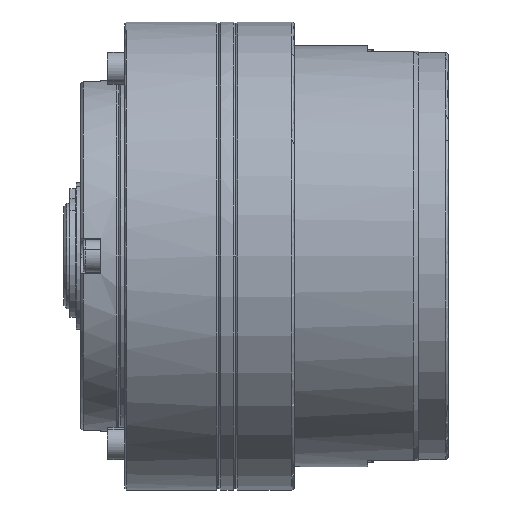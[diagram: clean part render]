
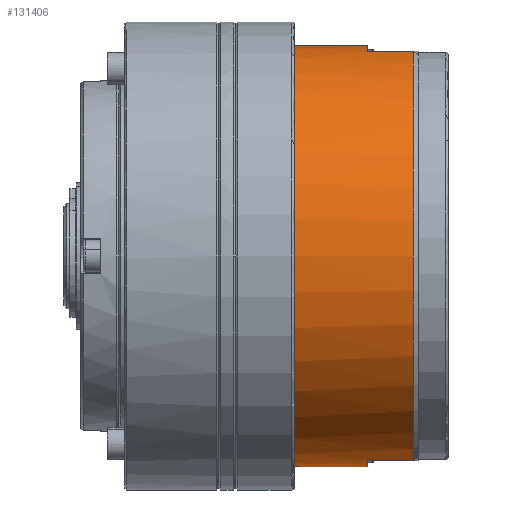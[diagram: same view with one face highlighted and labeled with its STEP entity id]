
A CAD part, left-side view. The second image highlights one B-rep face of the part: STEP entity #131406.
In plain terms, the highlighted cylindrical face has radius 36 mm (diameter 72 mm), a partial arc.
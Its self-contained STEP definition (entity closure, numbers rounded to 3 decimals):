
#3098 = CARTESIAN_POINT ( 'NONE',  ( -8.743, 8.7, 34.922 ) ) ;
#3840 = EDGE_CURVE ( 'NONE', #40414, #94831, #26426, .T. ) ;
#6182 = AXIS2_PLACEMENT_3D ( 'NONE', #99928, #13461, #56822 ) ;
#12487 = CARTESIAN_POINT ( 'NONE',  ( -8.743, 1., -34.922 ) ) ;
#13461 = DIRECTION ( 'NONE',  ( 0., 1., 0. ) ) ;
#14787 = CARTESIAN_POINT ( 'NONE',  ( -5.29, 8.7, 35.675 ) ) ;
#19782 = VECTOR ( 'NONE', #88752, 1000. ) ;
#20227 = VERTEX_POINT ( 'NONE', #32626 ) ;
#21260 = CARTESIAN_POINT ( 'NONE',  ( -7.03, 8.7, -35.351 ) ) ;
#21429 = CARTESIAN_POINT ( 'NONE',  ( -8.743, 8.7, -34.922 ) ) ;
#23023 = CARTESIAN_POINT ( 'NONE',  ( 0., 143.637, 36. ) ) ;
#23142 = ORIENTED_EDGE ( 'NONE', *, *, #77948, .T. ) ;
#24399 = CARTESIAN_POINT ( 'NONE',  ( -8.743, 143.637, -34.922 ) ) ;
#25453 = CARTESIAN_POINT ( 'NONE',  ( -3.532, 8.7, 35.892 ) ) ;
#26426 = LINE ( 'NONE', #65365, #19782 ) ;
#31672 = EDGE_CURVE ( 'NONE', #95633, #94831, #130209, .T. ) ;
#32568 = AXIS2_PLACEMENT_3D ( 'NONE', #80031, #112427, #133887 ) ;
#32626 = CARTESIAN_POINT ( 'NONE',  ( 0., 8.7, -36. ) ) ;
#33327 = CARTESIAN_POINT ( 'NONE',  ( 0., 21.3, -36. ) ) ;
#33404 = CARTESIAN_POINT ( 'NONE',  ( 0., 21.3, 36. ) ) ;
#33726 = DIRECTION ( 'NONE',  ( 0., -1., 0. ) ) ;
#36721 = LINE ( 'NONE', #23023, #115271 ) ;
#38359 = EDGE_CURVE ( 'NONE', #100884, #95633, #36721, .T. ) ;
#38667 = DIRECTION ( 'NONE',  ( 0., -1., 0. ) ) ;
#40414 = VERTEX_POINT ( 'NONE', #75033 ) ;
#40841 = CARTESIAN_POINT ( 'NONE',  ( -8.743, 8.7, -34.922 ) ) ;
#47235 = DIRECTION ( 'NONE',  ( 0., -1., 0. ) ) ;
#52966 = CARTESIAN_POINT ( 'NONE',  ( 0., 8.7, -36. ) ) ;
#53145 = LINE ( 'NONE', #24399, #111745 ) ;
#54673 = ORIENTED_EDGE ( 'NONE', *, *, #137543, .F. ) ;
#56822 = DIRECTION ( 'NONE',  ( 1., 0., 0. ) ) ;
#63264 = CARTESIAN_POINT ( 'NONE',  ( -3.532, 8.7, -35.892 ) ) ;
#65365 = CARTESIAN_POINT ( 'NONE',  ( -8.743, 143.637, 34.922 ) ) ;
#65757 = CYLINDRICAL_SURFACE ( 'NONE', #136255, 36. ) ;
#66326 = B_SPLINE_CURVE_WITH_KNOTS ( 'NONE', 5,
 ( #40841, #21260, #117144, #63264, #138093, #52966 ),
 .UNSPECIFIED., .F., .F.,
 ( 6, 6 ),
 ( 0., 12.489 ),
 .UNSPECIFIED. ) ;
#67484 = EDGE_CURVE ( 'NONE', #118679, #40414, #112327, .T. ) ;
#74049 = ORIENTED_EDGE ( 'NONE', *, *, #122034, .T. ) ;
#75033 = CARTESIAN_POINT ( 'NONE',  ( -8.743, 1., 34.922 ) ) ;
#77948 = EDGE_CURVE ( 'NONE', #136947, #118679, #53145, .T. ) ;
#78257 = EDGE_CURVE ( 'NONE', #114813, #20227, #113239, .T. ) ;
#78370 = ORIENTED_EDGE ( 'NONE', *, *, #38359, .F. ) ;
#80031 = CARTESIAN_POINT ( 'NONE',  ( 0., 21.3, 0. ) ) ;
#85046 = CARTESIAN_POINT ( 'NONE',  ( 0., 143.637, -36. ) ) ;
#86360 = EDGE_LOOP ( 'NONE', ( #78370, #74049, #138271, #54673, #23142, #115983, #118900, #87775 ) ) ;
#87775 = ORIENTED_EDGE ( 'NONE', *, *, #31672, .F. ) ;
#88752 = DIRECTION ( 'NONE',  ( 0., 1., 0. ) ) ;
#93817 = CARTESIAN_POINT ( 'NONE',  ( -8.743, 8.7, 34.922 ) ) ;
#94831 = VERTEX_POINT ( 'NONE', #93817 ) ;
#95633 = VERTEX_POINT ( 'NONE', #113297 ) ;
#98190 = VECTOR ( 'NONE', #116956, 1000. ) ;
#99396 = CARTESIAN_POINT ( 'NONE',  ( -1.766, 8.7, 36. ) ) ;
#99886 = CARTESIAN_POINT ( 'NONE',  ( -7.03, 8.7, 35.351 ) ) ;
#99928 = CARTESIAN_POINT ( 'NONE',  ( 0., 1., 0. ) ) ;
#100884 = VERTEX_POINT ( 'NONE', #33404 ) ;
#111745 = VECTOR ( 'NONE', #47235, 1000. ) ;
#112327 = CIRCLE ( 'NONE', #6182, 36. ) ;
#112427 = DIRECTION ( 'NONE',  ( 0., -1., 0. ) ) ;
#112698 = FACE_OUTER_BOUND ( 'NONE', #86360, .T. ) ;
#113239 = LINE ( 'NONE', #85046, #98190 ) ;
#113297 = CARTESIAN_POINT ( 'NONE',  ( 0., 8.7, 36. ) ) ;
#114813 = VERTEX_POINT ( 'NONE', #33327 ) ;
#115271 = VECTOR ( 'NONE', #33726, 1000. ) ;
#115983 = ORIENTED_EDGE ( 'NONE', *, *, #67484, .T. ) ;
#116956 = DIRECTION ( 'NONE',  ( 0., -1., 0. ) ) ;
#117144 = CARTESIAN_POINT ( 'NONE',  ( -5.29, 8.7, -35.675 ) ) ;
#118679 = VERTEX_POINT ( 'NONE', #12487 ) ;
#118900 = ORIENTED_EDGE ( 'NONE', *, *, #3840, .T. ) ;
#121239 = CIRCLE ( 'NONE', #32568, 36. ) ;
#121834 = CARTESIAN_POINT ( 'NONE',  ( 0., 8.7, 36. ) ) ;
#122034 = EDGE_CURVE ( 'NONE', #100884, #114813, #121239, .T. ) ;
#125215 = DIRECTION ( 'NONE',  ( 0., 0., -1. ) ) ;
#130209 = B_SPLINE_CURVE_WITH_KNOTS ( 'NONE', 5,
 ( #121834, #99396, #25453, #14787, #99886, #3098 ),
 .UNSPECIFIED., .F., .F.,
 ( 6, 6 ),
 ( 0., 12.489 ),
 .UNSPECIFIED. ) ;
#131406 = ADVANCED_FACE ( 'NONE', ( #112698 ), #65757, .T. ) ;
#133887 = DIRECTION ( 'NONE',  ( 1., 0., 0. ) ) ;
#135471 = CARTESIAN_POINT ( 'NONE',  ( 0., 143.637, 0. ) ) ;
#136255 = AXIS2_PLACEMENT_3D ( 'NONE', #135471, #38667, #125215 ) ;
#136947 = VERTEX_POINT ( 'NONE', #21429 ) ;
#137543 = EDGE_CURVE ( 'NONE', #136947, #20227, #66326, .T. ) ;
#138093 = CARTESIAN_POINT ( 'NONE',  ( -1.766, 8.7, -36. ) ) ;
#138271 = ORIENTED_EDGE ( 'NONE', *, *, #78257, .T. ) ;
